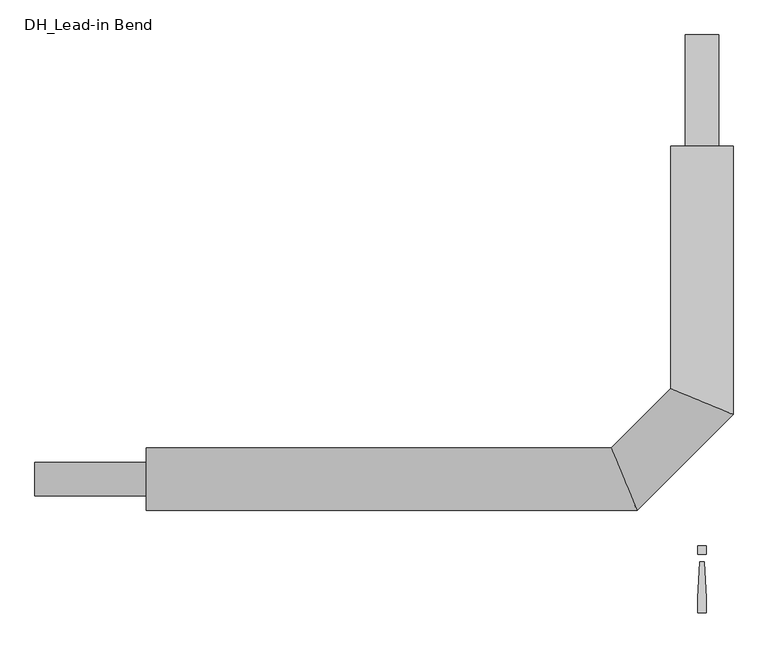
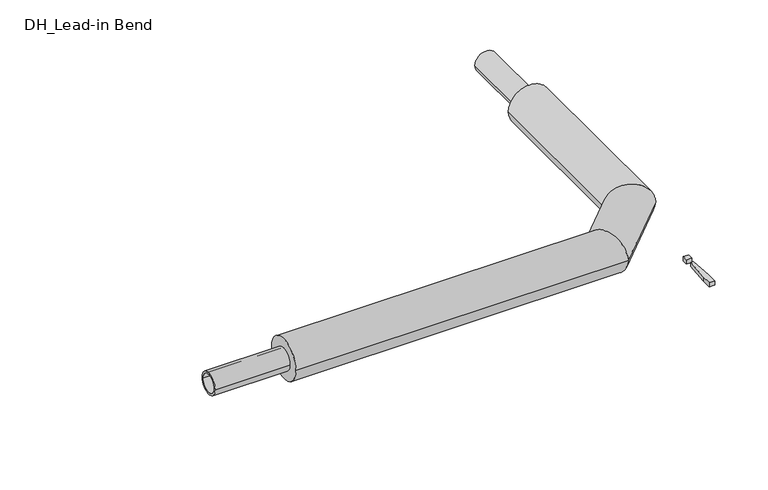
"""IFC4 building model written with IfcOpenShell, lengths in millimetres: pipe fitting geometry, DH_Lead-in Bend : INSULPEX UNO 11 Heating."""

from ifc_helpers import new_model, si_unit, point, frame, origin, origin_with_axes, origin_2d, place, context, project, spatial, polyline, circle_curve, ellipse_curve, trimmed, segment, composite_curve, outline, extrude, source, transform, mapped, element, save
from ifc_brep_helpers import plane_surface, cylinder_surface, advanced_brep


def dh_lead_in_bend_a8d3aaa1(model_context):
    return source(origin(), model_context, "Body", "SolidModel", [
        advanced_brep(
        [(-1250.0, -70.0, 0.0), (-1250.0, 70.0, 0.0), (-146.0050506, -70.0, 0.0), (-203.9949494, 70.0, 0.0), (70.0, 750.0, 0.0), (-70.0, 750.0, 0.0), (-70.0, 203.9949494, 0.0), (70.0, 146.0050506, 0.0)],
        [
            (0, 1, circle_curve(frame((-1250.0, 0.0, 0.0), z_axis=(-1.0, 0.0, 0.0), x_axis=(0.0, 1.0, 0.0)), 70.0)),
            (1, 0, circle_curve(frame((-1250.0, 0.0, 0.0), z_axis=(-1.0, 0.0, 0.0), x_axis=(0.0, 1.0, 0.0)), 70.0)),
            (0, 2),
            (2, 3, ellipse_curve(frame((-175.0, 0.0, 0.0), z_axis=(-0.9238795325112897, -0.3826834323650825, 0.0), x_axis=(-0.38268343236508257, 0.9238795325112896, 0.0)), 75.767454, 70.0)),
            (3, 1),
            (3, 2, ellipse_curve(frame((-175.0, 0.0, 0.0), z_axis=(-0.9238795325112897, -0.3826834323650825, 0.0), x_axis=(-0.38268343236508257, 0.9238795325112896, 0.0)), 75.767454, 70.0)),
            (4, 5, circle_curve(frame((0.0, 750.0, 0.0), z_axis=(0.0, 1.0, 0.0), x_axis=(-1.0, 0.0, 0.0)), 70.0)),
            (5, 4, circle_curve(frame((0.0, 750.0, 0.0), z_axis=(0.0, 1.0, 0.0), x_axis=(-1.0, 0.0, 0.0)), 70.0)),
            (6, 7, ellipse_curve(frame((0.0, 175.0, 0.0), z_axis=(0.3826834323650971, 0.9238795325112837, 0.0), x_axis=(0.9238795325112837, -0.382683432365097, 0.0)), 75.767454, 70.0)),
            (7, 4),
            (5, 6),
            (7, 6, ellipse_curve(frame((0.0, 175.0, 0.0), z_axis=(0.3826834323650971, 0.9238795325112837, 0.0), x_axis=(0.9238795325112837, -0.382683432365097, 0.0)), 75.767454, 70.0)),
            (2, 7),
            (6, 3),
        ],
        [
            plane_surface(frame((-1250.0, 0.0, 0.0), z_axis=(-1.0, 0.0, 0.0), x_axis=(0.0, 0.0, 1.0))),
            cylinder_surface(frame((-1250.0, 0.0, 0.0), z_axis=(-1.0, 0.0, 0.0), x_axis=(0.0, 1.0, 0.0)), 70.0),
            plane_surface(frame((0.0, 750.0, 0.0), z_axis=(0.0, 1.0, 0.0), x_axis=(0.0, 0.0, 1.0))),
            cylinder_surface(frame((0.0, 175.0, 0.0), z_axis=(0.0, -1.0, 0.0), x_axis=(-1.0, 0.0, 0.0)), 70.0),
            cylinder_surface(frame((-175.0, 0.0, 0.0), z_axis=(-0.7071067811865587, -0.7071067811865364, 0.0), x_axis=(-0.7071067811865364, 0.7071067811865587, 0.0)), 70.0),
        ],
        [
            (0, [[1, 2]]),
            (1, [[-1, 3, 4, 5]]),
            (1, [[-2, -5, 6, -3]]),
            (2, [[7, 8]]),
            (3, [[9, 10, -8, 11]]),
            (3, [[12, -11, -7, -10]]),
            (4, [[-4, 13, -9, 14]]),
            (4, [[-6, -14, -12, -13]]),
        ],
    ),
        extrude(outline(polyline([(4.7088895, -185.3166715), (9.4177791, -266.6553807), (9.4177791, -300.6844652), (-9.4177791, -300.6844652), (-9.4177791, -266.6553807), (-4.7088895, -185.3166715), (4.7088895, -185.3166715)])), origin_with_axes(), (0.0, 0.0, 1.0), 15.0),
        extrude(outline(polyline([(9.4177791, -150.0), (9.4177791, -168.8355582), (-9.4177791, -168.8355582), (-9.4177791, -150.0), (9.4177791, -150.0)])), origin_with_axes(), (0.0, 0.0, 1.0), 15.0),
        extrude(outline(composite_curve([segment(trimmed(circle_curve(origin_2d(), 37.5), [point((-37.5, 0.0))], [point((37.5, 0.0))], False, "CARTESIAN"), True, "CONTINUOUS"), segment(trimmed(circle_curve(origin_2d(), 37.5), [point((37.5, 0.0))], [point((-37.5, 0.0))], False, "CARTESIAN"), True, "CONTINUOUS")], self_intersect=False), holes=[composite_curve([segment(trimmed(circle_curve(origin_2d(), 30.7), [point((-30.7, 0.0))], [point((30.7, 0.0))], True, "CARTESIAN"), True, "CONTINUOUS"), segment(trimmed(circle_curve(origin_2d(), 30.7), [point((30.7, 0.0))], [point((-30.7, 0.0))], True, "CARTESIAN"), True, "CONTINUOUS")], self_intersect=False)]), frame((-1500.0, 0.0, 0.0), z_axis=(1.0, 0.0, 0.0), x_axis=(0.0, 1.0, 0.0)), (0.0, 0.0, 1.0), 250.0),
        extrude(outline(composite_curve([segment(trimmed(circle_curve(origin_2d(), 37.5), [point((0.0, 37.5))], [point((0.0, -37.5))], False, "CARTESIAN"), True, "CONTINUOUS"), segment(trimmed(circle_curve(origin_2d(), 37.5), [point((0.0, -37.5))], [point((0.0, 37.5))], False, "CARTESIAN"), True, "CONTINUOUS")], self_intersect=False), holes=[composite_curve([segment(trimmed(circle_curve(origin_2d(), 30.7), [point((0.0, 30.7))], [point((0.0, -30.7))], True, "CARTESIAN"), True, "CONTINUOUS"), segment(trimmed(circle_curve(origin_2d(), 30.7), [point((0.0, -30.7))], [point((0.0, 30.7))], True, "CARTESIAN"), True, "CONTINUOUS")], self_intersect=False)]), frame((0.0, 750.0, 0.0), z_axis=(0.0, 1.0, 0.0), x_axis=(0.0, 0.0, 1.0)), (0.0, 0.0, 1.0), 250.0),
    ])


if __name__ == "__main__":
    model = new_model("IFC4")
    model_context = context("Model", 3, world=origin())
    ifc_project = project(units=[si_unit("LENGTHUNIT", "METRE", prefix="MILLI")], contexts=[model_context])
    site = spatial("IfcSite", under=ifc_project)
    building = spatial("IfcBuilding", under=site)
    placement = place(None, origin())
    dh_lead_in_bend_shape = dh_lead_in_bend_a8d3aaa1(model_context)
    element("IfcPipeFitting", 1, ObjectType="DH_Lead-in Bend : INSULPEX UNO 11 Heating", at=placement, inside=building, context=model_context, shape_type="MappedRepresentation", body=[
        mapped(dh_lead_in_bend_shape, transform((0.0, 0.0, 0.0), x_axis=(1.0, 0.0, 0.0), y_axis=(0.0, 1.0, 0.0), z_axis=(0.0, 0.0, 1.0))),
    ])
    save(model, "model.ifc")
